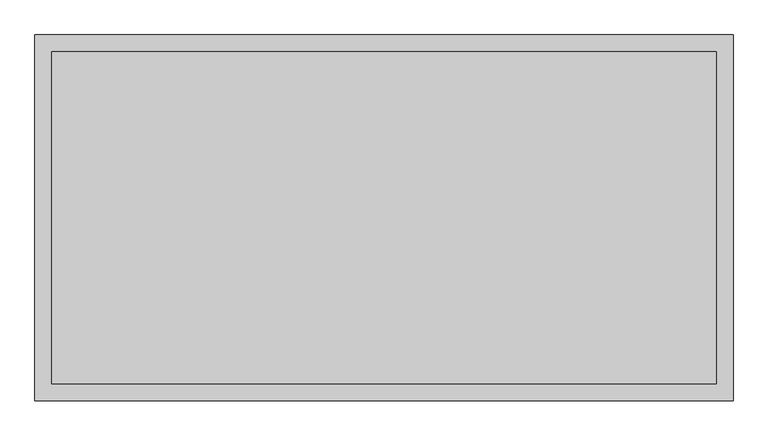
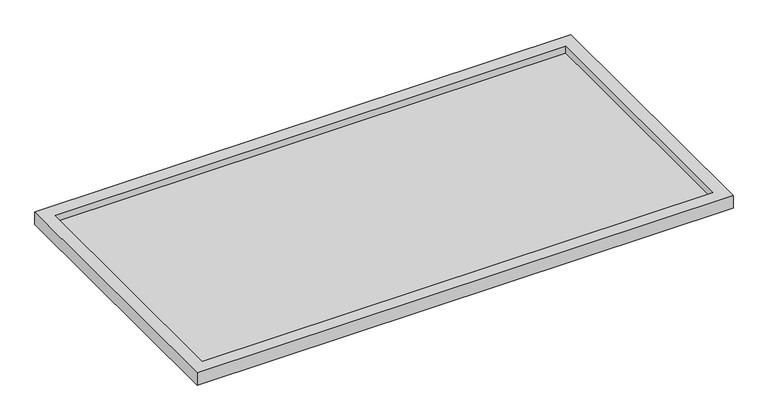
"""IFC4 building model written with IfcOpenShell, lengths in millimetres: proxy geometry, PLATO DE DUCHA : Plato de Ducha 110x210 cm."""

import ifcopenshell
import ifcopenshell.guid

model = None  # the IFC model being written
_history = None  # IfcOwnerHistory: only IFC2X3 demands one
_inside = {}  # id of a spatial element -> (the spatial element, [elements in it])
_under = {}  # id of a project, library or spatial element -> (it, [spatial elements below it])
_declared = {}  # id of a project -> (the project, [libraries it declares])
_typed = {}  # id of a type object -> (the type object, [elements of that type])
_made_of = {}  # id of a material, layer set ... -> (it, [elements and type objects made of it])


def new_model(schema):
    """Start an empty IFC model of exactly this schema.

    Asked for "IFC4X3", IfcOpenShell would pick the latest addendum, in which some entities
    have other attributes; the version numbers below select the first issue.
    IFC2X3 requires an IfcOwnerHistory on every rooted entity: one is made here for all.
    """
    global model, _history
    if schema == "IFC4X3":
        model = ifcopenshell.file(schema_version=(4, 3, 0, 0))
    else:
        model = ifcopenshell.file(schema=schema)
    _inside.clear()
    _under.clear()
    _declared.clear()
    _typed.clear()
    _made_of.clear()
    _history = None
    if model.schema == "IFC2X3":
        org = make("IfcOrganization", Name="unknown")
        user = make(
            "IfcPersonAndOrganization",
            ThePerson=make("IfcPerson", FamilyName="unknown"),
            TheOrganization=org,
        )
        app = make(
            "IfcApplication",
            ApplicationDeveloper=org,
            Version="unknown",
            ApplicationFullName="unknown",
            ApplicationIdentifier="unknown",
        )
        _history = make(
            "IfcOwnerHistory",
            OwningUser=user,
            OwningApplication=app,
            ChangeAction="ADDED",
            CreationDate=0,
        )
    return model


def make(cls, **values):
    """One entity of the class cls with the attributes given. An attribute that is None is left unset."""
    return model.create_entity(
        cls, **{name: value for name, value in values.items() if value is not None}
    )


def rooted(cls, **values):
    """An entity with a GlobalId (a new one), such as an element, a storey or a relation."""
    return make(cls, GlobalId=ifcopenshell.guid.new(), OwnerHistory=_history, **values)


def si_unit(unit_type, name, prefix=None):
    """IfcSIUnit, for example si_unit("LENGTHUNIT", "METRE", prefix="MILLI")."""
    return make("IfcSIUnit", UnitType=unit_type, Prefix=prefix, Name=name)


def assignment(units):
    """IfcUnitAssignment: the units of a project."""
    return None if units is None else make("IfcUnitAssignment", Units=units)


def point(xyz):
    """IfcCartesianPoint."""
    return None if xyz is None else make("IfcCartesianPoint", Coordinates=xyz)


def direction(xyz):
    """IfcDirection."""
    return None if xyz is None else make("IfcDirection", DirectionRatios=xyz)


def frame(location, z_axis=None, x_axis=None):
    """IfcAxis2Placement3D, a coordinate frame: its origin and axes. An axis left out is left unset."""
    return make(
        "IfcAxis2Placement3D",
        Location=point(location),
        Axis=direction(z_axis),
        RefDirection=direction(x_axis),
    )


def origin():
    """The frame at (0, 0, 0) with its axes left unset."""
    return frame((0.0, 0.0, 0.0))


def place(relative_to, where):
    """IfcLocalPlacement: puts the frame where relative to a parent placement (None: the world)."""
    return make(
        "IfcLocalPlacement", PlacementRelTo=relative_to, RelativePlacement=where
    )


def context(
    kind, dimensions, precision=None, world=None, true_north=None, identifier=None
):
    """IfcGeometricRepresentationContext, for example the 3D "Model" context."""
    return make(
        "IfcGeometricRepresentationContext",
        ContextIdentifier=identifier,
        ContextType=kind,
        CoordinateSpaceDimension=dimensions,
        Precision=precision,
        WorldCoordinateSystem=world,
        TrueNorth=true_north,
    )


def project(units=None, contexts=None):
    """IfcProject with its units and contexts."""
    return rooted(
        "IfcProject",
        Name="project",
        RepresentationContexts=contexts,
        UnitsInContext=assignment(units),
    )


def spatial(cls, under=None, at=None, **own):
    """A site, building, storey or space (cls), placed at a placement, below another one or the project."""
    s = rooted(cls, ObjectPlacement=at, **own)
    if under is not None:
        _under.setdefault(under.id(), (under, []))[1].append(s)
    return s


def polyline(points):
    """IfcPolyline through the points."""
    return make("IfcPolyline", Points=[point(p) for p in points])


def outline(outer, holes=None, kind="AREA"):
    """IfcArbitraryClosedProfileDef: a profile drawn as a closed curve; with holes, ...WithVoids."""
    if holes is None:
        return make("IfcArbitraryClosedProfileDef", ProfileType=kind, OuterCurve=outer)
    return make(
        "IfcArbitraryProfileDefWithVoids",
        ProfileType=kind,
        OuterCurve=outer,
        InnerCurves=holes,
    )


def extrude(swept, where, along, depth):
    """IfcExtrudedAreaSolid: the profile swept, set in the frame where, extruded along a direction by depth."""
    return make(
        "IfcExtrudedAreaSolid",
        SweptArea=swept,
        Position=where,
        ExtrudedDirection=direction(along),
        Depth=depth,
    )


def faces_of(points, faces, orient=None, outer=None):
    """IfcFace entities. A face is a list of loops; a loop is a list of indices into points, from 0.

    orient and outer hold one flag for each loop. By default every Orientation is true, the
    first loop of a face is its IfcFaceOuterBound and the others are IfcFaceBound.
    """
    made = []
    for i, loops in enumerate(faces):
        bounds = []
        for j, loop in enumerate(loops):
            is_outer = j == 0 if outer is None else outer[i][j]
            bounds.append(
                make(
                    "IfcFaceOuterBound" if is_outer else "IfcFaceBound",
                    Bound=make("IfcPolyLoop", Polygon=[points[k] for k in loop]),
                    Orientation=True if orient is None else orient[i][j],
                )
            )
        made.append(make("IfcFace", Bounds=bounds))
    return made


def faceted_brep(points, faces, orient=None, outer=None, voids=None):
    """IfcFacetedBrep: a solid bounded by flat faces; with voids (closed shells), ...WithVoids."""
    shared = [point(p) for p in points]
    hull = make("IfcClosedShell", CfsFaces=faces_of(shared, faces, orient, outer))
    if voids is None:
        return make("IfcFacetedBrep", Outer=hull)
    return make(
        "IfcFacetedBrepWithVoids",
        Outer=hull,
        Voids=[
            make(cls, CfsFaces=faces_of(shared, fs, o, b)) for cls, fs, o, b in voids
        ],
    )


def shape(context_of_items, identifier, shape_type, items):
    """IfcShapeRepresentation: the items that make up one representation, for example the "Body"."""
    return make(
        "IfcShapeRepresentation",
        ContextOfItems=context_of_items,
        RepresentationIdentifier=identifier,
        RepresentationType=shape_type,
        Items=items,
    )


def source(mapping_origin, context_of_items, identifier, shape_type, items):
    """IfcRepresentationMap: a shape defined once, which mapped items show again and again."""
    return make(
        "IfcRepresentationMap",
        MappingOrigin=mapping_origin,
        MappedRepresentation=shape(context_of_items, identifier, shape_type, items),
    )


def transform(
    local_origin,
    x_axis=None,
    y_axis=None,
    z_axis=None,
    scale=None,
    scale2=None,
    scale3=None,
    uniform=True,
):
    """IfcCartesianTransformationOperator3D, or its non-uniform kind. x_axis, y_axis, z_axis: its Axis1, 2, 3."""
    if uniform:
        return make(
            "IfcCartesianTransformationOperator3D",
            Axis1=direction(x_axis),
            Axis2=direction(y_axis),
            LocalOrigin=point(local_origin),
            Scale=scale,
            Axis3=direction(z_axis),
        )
    return make(
        "IfcCartesianTransformationOperator3DnonUniform",
        Axis1=direction(x_axis),
        Axis2=direction(y_axis),
        LocalOrigin=point(local_origin),
        Scale=scale,
        Axis3=direction(z_axis),
        Scale2=scale2,
        Scale3=scale3,
    )


def mapped(mapping_source, mapping_target):
    """IfcMappedItem: shows the shape of a source again, moved by a transform."""
    return make(
        "IfcMappedItem", MappingSource=mapping_source, MappingTarget=mapping_target
    )


def made_of(thing, what):
    """Note that an element or type object is made of a material, layer set ...; save() writes the relation."""
    if what is not None:
        _made_of.setdefault(what.id(), (what, []))[1].append(thing)
    return thing


def element(
    cls,
    number,
    at=None,
    inside=None,
    cuts=None,
    type_object=None,
    material=None,
    context=None,
    identifier="Body",
    shape_type=None,
    held_by="IfcProductDefinitionShape",
    body=None,
    shapes=None,
    **own,
):
    """One element of the class cls, such as IfcWall. Its Tag is "e" and its number.

    at: its placement. inside: the storey or other place that contains it. cuts: it is an
    opening in that element (IfcRelVoidsElement). A single representation is given by context,
    identifier, shape_type and body (its items); several are given by shapes. held_by: the class
    of the entity that holds the representations. save() writes the other relations.
    """
    e = rooted(cls, Tag="e%d" % number, ObjectPlacement=at, **own)
    if body is not None:
        shapes = [shape(context, identifier, shape_type, body)]
    if shapes is not None:
        e.Representation = make(held_by, Representations=shapes)
    if inside is not None:
        _inside.setdefault(inside.id(), (inside, []))[1].append(e)
    if cuts is not None:
        rooted(
            "IfcRelVoidsElement", RelatingBuildingElement=cuts, RelatedOpeningElement=e
        )
    if type_object is not None:
        _typed.setdefault(type_object.id(), (type_object, []))[1].append(e)
    return made_of(e, material)


def aggregate(whole, parts):
    """IfcRelAggregates: a whole, such as a stair, and the parts it consists of."""
    return rooted("IfcRelAggregates", RelatingObject=whole, RelatedObjects=parts)


def save(model, path):
    """Write the relations noted so far, then the file.

    IfcRelAggregates (storeys below a building ...), IfcRelContainedInSpatialStructure (elements
    in a storey), IfcRelDefinesByType, IfcRelAssociatesMaterial and IfcRelDeclares: one each for
    every whole, place, type object, material and project.
    """
    for whole, parts in _under.values():
        aggregate(whole, parts)
    for where, things in _inside.values():
        rooted(
            "IfcRelContainedInSpatialStructure",
            RelatedElements=things,
            RelatingStructure=where,
        )
    for kind, things in _typed.values():
        rooted("IfcRelDefinesByType", RelatedObjects=things, RelatingType=kind)
    for what, things in _made_of.values():
        rooted("IfcRelAssociatesMaterial", RelatedObjects=things, RelatingMaterial=what)
    for by, libraries in _declared.values():
        rooted("IfcRelDeclares", RelatingContext=by, RelatedDefinitions=libraries)
    model.write(path)


def generic_models_c83b035a(model_context):
    return source(origin(), model_context, "Body", "SolidModel", [
        extrude(outline(polyline([(-1000.0, 500.0), (1000.0, 500.0), (1000.0, -500.0), (-1000.0, -500.0), (-1000.0, 500.0)])), frame((0.0, 0.0, 20.0), z_axis=(0.0, 0.0, 1.0), x_axis=(1.0, 0.0, 0.0)), (0.0, 0.0, 1.0), 1.9779388),
        faceted_brep([(1050.0, 550.0, 0.0), (1050.0, 550.0, 50.0), (1050.0, -550.0, 50.0), (1050.0, -550.0, 0.0), (1047.5, 547.5, 47.5), (1047.5, 547.5, 0.0), (1047.5, -547.5, 0.0), (1047.5, -547.5, 47.5), (1002.5, 502.5, 20.0), (1002.5, 502.5, 47.5), (1002.5, -502.5, 47.5), (1002.5, -502.5, 20.0), (1000.0, 500.0, 50.0), (1000.0, 500.0, 20.0), (1000.0, -500.0, 20.0), (1000.0, -500.0, 50.0), (-1050.0, -550.0, 50.0), (-1050.0, -550.0, 0.0), (-1047.5, -547.5, 0.0), (-1047.5, -547.5, 47.5), (-1002.5, -502.5, 47.5), (-1002.5, -502.5, 20.0), (-1000.0, -500.0, 20.0), (-1000.0, -500.0, 50.0), (-1050.0, 550.0, 50.0), (-1050.0, 550.0, 0.0), (-1047.5, 547.5, 0.0), (-1047.5, 547.5, 47.5), (-1002.5, 502.5, 47.5), (-1002.5, 502.5, 20.0), (-1000.0, 500.0, 20.0), (-1000.0, 500.0, 50.0)], [[[0, 1, 2, 3]], [[4, 5, 6, 7]], [[8, 9, 10, 11]], [[12, 13, 14, 15]], [[3, 2, 16, 17]], [[7, 6, 18, 19]], [[11, 10, 20, 21]], [[15, 14, 22, 23]], [[17, 16, 24, 25]], [[19, 18, 26, 27]], [[21, 20, 28, 29]], [[23, 22, 30, 31]], [[25, 24, 1, 0]], [[3, 17, 25, 0], [5, 26, 18, 6]], [[27, 26, 5, 4]], [[7, 19, 27, 4], [9, 28, 20, 10]], [[29, 28, 9, 8]], [[11, 21, 29, 8], [13, 30, 22, 14]], [[31, 30, 13, 12]], [[1, 24, 16, 2], [15, 23, 31, 12]]]),
    ])


if __name__ == "__main__":
    model = new_model("IFC4")
    model_context = context("Model", 3, world=origin())
    ifc_project = project(units=[si_unit("LENGTHUNIT", "METRE", prefix="MILLI")], contexts=[model_context])
    site = spatial("IfcSite", under=ifc_project)
    building = spatial("IfcBuilding", under=site)
    placement = place(None, origin())
    generic_models_shape = generic_models_c83b035a(model_context)
    element("IfcBuildingElementProxy", 1, Name="PLATO DE DUCHA : Plato de Ducha 110x210 cm", ObjectType="PLATO DE DUCHA : Plato de Ducha 110x210 cm", at=placement, inside=building, context=model_context, shape_type="MappedRepresentation", body=[
        mapped(generic_models_shape, transform((0.0, 0.0, 0.0), x_axis=(1.0, 0.0, 0.0), y_axis=(0.0, 1.0, 0.0), z_axis=(0.0, 0.0, 1.0))),
    ])
    save(model, "model.ifc")
